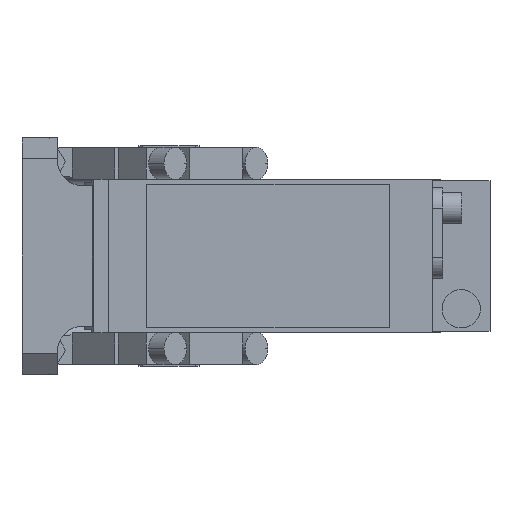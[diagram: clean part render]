
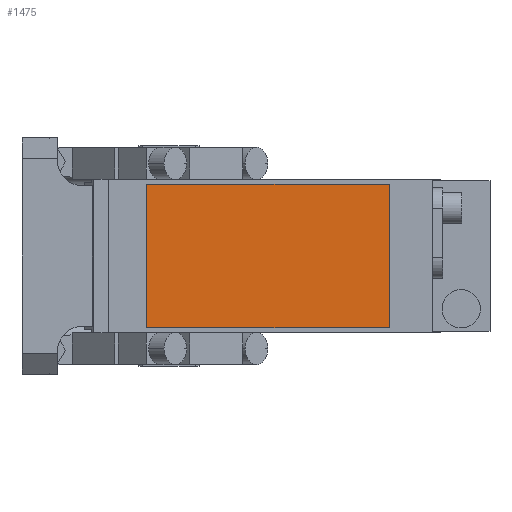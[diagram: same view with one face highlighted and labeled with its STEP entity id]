
A CAD part, front view. The second image highlights one B-rep face of the part: STEP entity #1475.
In plain terms, the highlighted planar face has unit normal (0, -1, 0).
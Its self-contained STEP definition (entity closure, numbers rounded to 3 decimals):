
#173 = DIRECTION ( 'NONE',  ( 0., 0., 1. ) ) ;
#1204 = LINE ( 'NONE', #11813, #5641 ) ;
#1215 = VECTOR ( 'NONE', #2182, 1000. ) ;
#1356 = DIRECTION ( 'NONE',  ( 0., 0., -1. ) ) ;
#1475 = ADVANCED_FACE ( 'NONE', ( #3227 ), #11167, .T. ) ;
#1864 = ORIENTED_EDGE ( 'NONE', *, *, #9689, .T. ) ;
#1902 = VERTEX_POINT ( 'NONE', #12304 ) ;
#2182 = DIRECTION ( 'NONE',  ( 1., 0., 0. ) ) ;
#2250 = CARTESIAN_POINT ( 'NONE',  ( -7., -280.5, -22.5 ) ) ;
#3227 = FACE_OUTER_BOUND ( 'NONE', #11424, .T. ) ;
#3279 = AXIS2_PLACEMENT_3D ( 'NONE', #13676, #6528, #13747 ) ;
#3433 = VERTEX_POINT ( 'NONE', #9700 ) ;
#3819 = CARTESIAN_POINT ( 'NONE',  ( -7., -280.5, 22.5 ) ) ;
#3884 = ORIENTED_EDGE ( 'NONE', *, *, #5246, .T. ) ;
#4160 = VECTOR ( 'NONE', #9177, 1000. ) ;
#5246 = EDGE_CURVE ( 'NONE', #1902, #3433, #7134, .T. ) ;
#5641 = VECTOR ( 'NONE', #1356, 1000. ) ;
#5829 = LINE ( 'NONE', #6872, #4160 ) ;
#5998 = EDGE_CURVE ( 'NONE', #3433, #13946, #5829, .T. ) ;
#6447 = CARTESIAN_POINT ( 'NONE',  ( -7., -280.5, -22.5 ) ) ;
#6528 = DIRECTION ( 'NONE',  ( 0., -1., 0. ) ) ;
#6758 = ORIENTED_EDGE ( 'NONE', *, *, #5998, .T. ) ;
#6872 = CARTESIAN_POINT ( 'NONE',  ( -7., -280.5, 22.5 ) ) ;
#7134 = LINE ( 'NONE', #10634, #14912 ) ;
#7142 = LINE ( 'NONE', #2250, #1215 ) ;
#9177 = DIRECTION ( 'NONE',  ( -1., 0., 0. ) ) ;
#9454 = EDGE_CURVE ( 'NONE', #13946, #13606, #1204, .T. ) ;
#9689 = EDGE_CURVE ( 'NONE', #13606, #1902, #7142, .T. ) ;
#9700 = CARTESIAN_POINT ( 'NONE',  ( 69., -280.5, 22.5 ) ) ;
#10634 = CARTESIAN_POINT ( 'NONE',  ( 69., -280.5, 22.5 ) ) ;
#11167 = PLANE ( 'NONE',  #3279 ) ;
#11424 = EDGE_LOOP ( 'NONE', ( #14134, #1864, #3884, #6758 ) ) ;
#11813 = CARTESIAN_POINT ( 'NONE',  ( -7., -280.5, 22.5 ) ) ;
#12304 = CARTESIAN_POINT ( 'NONE',  ( 69., -280.5, -22.5 ) ) ;
#13606 = VERTEX_POINT ( 'NONE', #6447 ) ;
#13676 = CARTESIAN_POINT ( 'NONE',  ( 0., -280.5, 0. ) ) ;
#13747 = DIRECTION ( 'NONE',  ( 0., 0., -1. ) ) ;
#13946 = VERTEX_POINT ( 'NONE', #3819 ) ;
#14134 = ORIENTED_EDGE ( 'NONE', *, *, #9454, .T. ) ;
#14912 = VECTOR ( 'NONE', #173, 1000. ) ;
